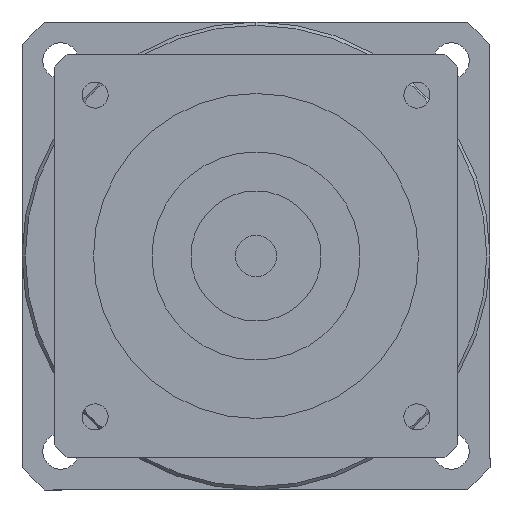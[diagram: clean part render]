
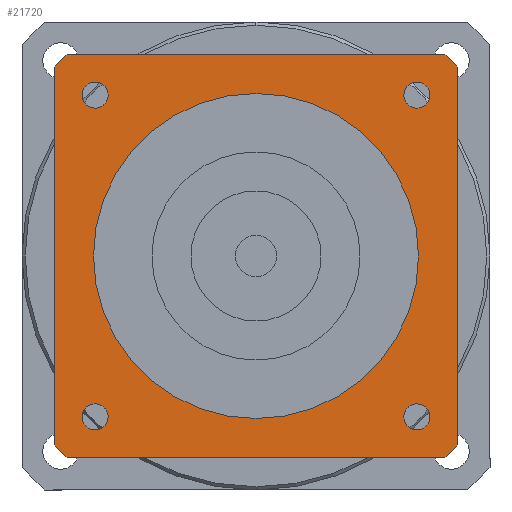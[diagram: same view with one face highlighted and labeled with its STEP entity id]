
A CAD part, left-side view. The second image highlights one B-rep face of the part: STEP entity #21720.
In plain terms, the highlighted planar face has unit normal (-1, 0, 0) as drawn and (0, 0, -1) by its records, which use the part's own axes.
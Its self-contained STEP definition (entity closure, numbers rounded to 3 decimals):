
#15410=CARTESIAN_POINT('',(29.073,31.,-92.));
#15420=VERTEX_POINT('',#15410);
#15450=CARTESIAN_POINT('',(0.,0.,
-92.));
#15460=DIRECTION('',(0.,0.,1.));
#15470=DIRECTION('',(0.,-1.,0.));
#15480=AXIS2_PLACEMENT_3D('',#15450,#15460,#15470);
#15490=CIRCLE('',#15480,42.5);
#15500=CARTESIAN_POINT('',(31.,29.073,-92.));
#15510=VERTEX_POINT('',#15500);
#15520=EDGE_CURVE('',#15510,#15420,#15490,.T.);
#18330=CARTESIAN_POINT('',(-29.073,31.,-92.));
#18340=VERTEX_POINT('',#18330);
#18420=CARTESIAN_POINT('',(-31.,29.073,-92.));
#18430=VERTEX_POINT('',#18420);
#18460=CARTESIAN_POINT('',(0.,0.,
-92.));
#18470=DIRECTION('',(0.,0.,1.));
#18480=DIRECTION('',(0.,-1.,0.));
#18490=AXIS2_PLACEMENT_3D('',#18460,#18470,#18480);
#18500=CIRCLE('',#18490,42.5);
#18510=EDGE_CURVE('',#18340,#18430,#18500,.T.);
#19020=CARTESIAN_POINT('',(-31.,-29.073,-92.));
#19030=VERTEX_POINT('',#19020);
#19110=CARTESIAN_POINT('',(-29.073,-31.,-92.));
#19120=VERTEX_POINT('',#19110);
#19150=CARTESIAN_POINT('',(0.,0.,
-92.));
#19160=DIRECTION('',(0.,0.,1.));
#19170=DIRECTION('',(0.,-1.,0.));
#19180=AXIS2_PLACEMENT_3D('',#19150,#19160,#19170);
#19190=CIRCLE('',#19180,42.5);
#19200=EDGE_CURVE('',#19030,#19120,#19190,.T.);
#19670=CARTESIAN_POINT('',(29.073,-31.,-92.));
#19680=VERTEX_POINT('',#19670);
#19760=CARTESIAN_POINT('',(31.,-29.073,-92.));
#19770=VERTEX_POINT('',#19760);
#19800=CARTESIAN_POINT('',(0.,0.,
-92.));
#19810=DIRECTION('',(0.,0.,1.));
#19820=DIRECTION('',(0.,-1.,0.));
#19830=AXIS2_PLACEMENT_3D('',#19800,#19810,#19820);
#19840=CIRCLE('',#19830,42.5);
#19850=EDGE_CURVE('',#19680,#19770,#19840,.T.);
#20000=CARTESIAN_POINT('',(31.,-31.,-92.));
#20010=DIRECTION('',(0.,1.,0.));
#20020=VECTOR('',#20010,1000.);
#20030=LINE('',#20000,#20020);
#20040=EDGE_CURVE('',#19770,#15510,#20030,.T.);
#20190=CARTESIAN_POINT('',(31.,31.,-92.));
#20200=DIRECTION('',(-1.,0.,0.));
#20210=VECTOR('',#20200,1000.);
#20220=LINE('',#20190,#20210);
#20230=EDGE_CURVE('',#15420,#18340,#20220,.T.);
#20370=CARTESIAN_POINT('',(-24.749,22.749,-92.));
#20380=VERTEX_POINT('',#20370);
#20470=CARTESIAN_POINT('',(-24.749,26.749,-92.));
#20480=VERTEX_POINT('',#20470);
#20510=CARTESIAN_POINT('',(-24.749,24.749,-92.));
#20520=DIRECTION('',(0.,0.,-1.));
#20530=DIRECTION('',(-1.,0.,0.));
#20540=AXIS2_PLACEMENT_3D('',#20510,#20520,#20530);
#20550=CIRCLE('',#20540,2.);
#20560=CARTESIAN_POINT('',(-26.749,24.749,-92.));
#20570=VERTEX_POINT('',#20560);
#20580=EDGE_CURVE('',#20570,#20480,#20550,.T.);
#20600=EDGE_CURVE('',#20380,#20570,#20550,.T.);
#20650=CARTESIAN_POINT('',(-31.,31.,-92.));
#20660=DIRECTION('',(0.,0.,1.));
#20670=DIRECTION('',(-1.,0.,0.));
#20680=AXIS2_PLACEMENT_3D('',#20650,#20660,#20670);
#20690=PLANE('',#20680);
#20700=CARTESIAN_POINT('',(24.749,-24.749,-92.));
#20710=DIRECTION('',(0.,0.,-1.));
#20720=DIRECTION('',(1.,0.,0.));
#20730=AXIS2_PLACEMENT_3D('',#20700,#20710,#20720);
#20740=CIRCLE('',#20730,2.);
#20750=CARTESIAN_POINT('',(26.749,-24.749,-92.));
#20760=VERTEX_POINT('',#20750);
#20770=CARTESIAN_POINT('',(24.749,-26.749,-92.));
#20780=VERTEX_POINT('',#20770);
#20790=EDGE_CURVE('',#20760,#20780,#20740,.T.);
#20800=ORIENTED_EDGE('',*,*,#20790,.F.);
#20810=CARTESIAN_POINT('',(24.749,-22.749,-92.));
#20820=VERTEX_POINT('',#20810);
#20830=EDGE_CURVE('',#20780,#20820,#20740,.T.);
#20840=ORIENTED_EDGE('',*,*,#20830,.F.);
#20850=EDGE_CURVE('',#20820,#20760,#20740,.T.);
#20860=ORIENTED_EDGE('',*,*,#20850,.F.);
#20870=EDGE_LOOP('',(#20860,#20840,#20800));
#20880=FACE_BOUND('',#20870,.T.);
#20890=CARTESIAN_POINT('',(24.749,24.749,-92.));
#20900=DIRECTION('',(0.,0.,-1.));
#20910=DIRECTION('',(0.,1.,0.));
#20920=AXIS2_PLACEMENT_3D('',#20890,#20900,#20910);
#20930=CIRCLE('',#20920,2.);
#20940=CARTESIAN_POINT('',(24.749,26.749,-92.));
#20950=VERTEX_POINT('',#20940);
#20960=CARTESIAN_POINT('',(26.749,24.749,-92.));
#20970=VERTEX_POINT('',#20960);
#20980=EDGE_CURVE('',#20950,#20970,#20930,.T.);
#20990=ORIENTED_EDGE('',*,*,#20980,.F.);
#21000=CARTESIAN_POINT('',(22.749,24.749,-92.));
#21010=VERTEX_POINT('',#21000);
#21020=EDGE_CURVE('',#20970,#21010,#20930,.T.);
#21030=ORIENTED_EDGE('',*,*,#21020,.F.);
#21040=EDGE_CURVE('',#21010,#20950,#20930,.T.);
#21050=ORIENTED_EDGE('',*,*,#21040,.F.);
#21060=EDGE_LOOP('',(#21050,#21030,#20990));
#21070=FACE_BOUND('',#21060,.T.);
#21080=ORIENTED_EDGE('',*,*,#20580,.F.);
#21090=EDGE_CURVE('',#20480,#20380,#20550,.T.);
#21100=ORIENTED_EDGE('',*,*,#21090,.F.);
#21110=ORIENTED_EDGE('',*,*,#20600,.F.);
#21120=EDGE_LOOP('',(#21110,#21100,#21080));
#21130=FACE_BOUND('',#21120,.T.);
#21140=CARTESIAN_POINT('',(-24.749,-24.749,-92.));
#21150=DIRECTION('',(0.,0.,-1.));
#21160=DIRECTION('',(0.,-1.,0.));
#21170=AXIS2_PLACEMENT_3D('',#21140,#21150,#21160);
#21180=CIRCLE('',#21170,2.);
#21190=CARTESIAN_POINT('',(-24.749,-26.749,-92.));
#21200=VERTEX_POINT('',#21190);
#21210=CARTESIAN_POINT('',(-26.749,-24.749,-92.));
#21220=VERTEX_POINT('',#21210);
#21230=EDGE_CURVE('',#21200,#21220,#21180,.T.);
#21240=ORIENTED_EDGE('',*,*,#21230,.F.);
#21250=CARTESIAN_POINT('',(-22.749,-24.749,-92.));
#21260=VERTEX_POINT('',#21250);
#21270=EDGE_CURVE('',#21220,#21260,#21180,.T.);
#21280=ORIENTED_EDGE('',*,*,#21270,.F.);
#21290=EDGE_CURVE('',#21260,#21200,#21180,.T.);
#21300=ORIENTED_EDGE('',*,*,#21290,.F.);
#21310=EDGE_LOOP('',(#21300,#21280,#21240));
#21320=FACE_BOUND('',#21310,.T.);
#21330=ORIENTED_EDGE('',*,*,#19200,.F.);
#21340=CARTESIAN_POINT('',(-31.,-31.,-92.));
#21350=DIRECTION('',(1.,0.,0.));
#21360=VECTOR('',#21350,1000.);
#21370=LINE('',#21340,#21360);
#21380=EDGE_CURVE('',#19120,#19680,#21370,.T.);
#21390=ORIENTED_EDGE('',*,*,#21380,.F.);
#21400=ORIENTED_EDGE('',*,*,#19850,.F.);
#21410=ORIENTED_EDGE('',*,*,#20040,.F.);
#21420=ORIENTED_EDGE('',*,*,#15520,.F.);
#21430=ORIENTED_EDGE('',*,*,#20230,.F.);
#21440=ORIENTED_EDGE('',*,*,#18510,.F.);
#21450=CARTESIAN_POINT('',(-31.,31.,-92.));
#21460=DIRECTION('',(0.,-1.,0.));
#21470=VECTOR('',#21460,1000.);
#21480=LINE('',#21450,#21470);
#21490=EDGE_CURVE('',#18430,#19030,#21480,.T.);
#21500=ORIENTED_EDGE('',*,*,#21490,.F.);
#21510=EDGE_LOOP('',(#21500,#21440,#21430,#21420,#21410,#21400,#21390,
#21330));
#21520=FACE_OUTER_BOUND('',#21510,.T.);
#21530=CARTESIAN_POINT('',(0.,0.,
-92.));
#21540=DIRECTION('',(0.,0.,1.));
#21550=DIRECTION('',(0.,-1.,0.));
#21560=AXIS2_PLACEMENT_3D('',#21530,#21540,#21550);
#21570=CIRCLE('',#21560,25.);
#21580=CARTESIAN_POINT('',(25.,0.,-92.));
#21590=VERTEX_POINT('',#21580);
#21600=CARTESIAN_POINT('',(-25.,0.,-92.));
#21610=VERTEX_POINT('',#21600);
#21620=EDGE_CURVE('',#21590,#21610,#21570,.T.);
#21630=ORIENTED_EDGE('',*,*,#21620,.T.);
#21640=CARTESIAN_POINT('',(0.,-25.,-92.));
#21650=VERTEX_POINT('',#21640);
#21660=EDGE_CURVE('',#21650,#21590,#21570,.T.);
#21670=ORIENTED_EDGE('',*,*,#21660,.T.);
#21680=EDGE_CURVE('',#21610,#21650,#21570,.T.);
#21690=ORIENTED_EDGE('',*,*,#21680,.T.);
#21700=EDGE_LOOP('',(#21690,#21670,#21630));
#21710=FACE_BOUND('',#21700,.T.);
#21720=ADVANCED_FACE('',(#20880,#21070,#21130,#21320,#21520,#21710),
#20690,.F.);
